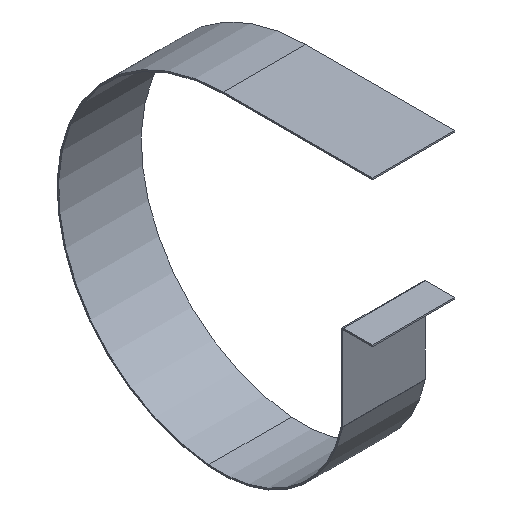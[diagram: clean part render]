
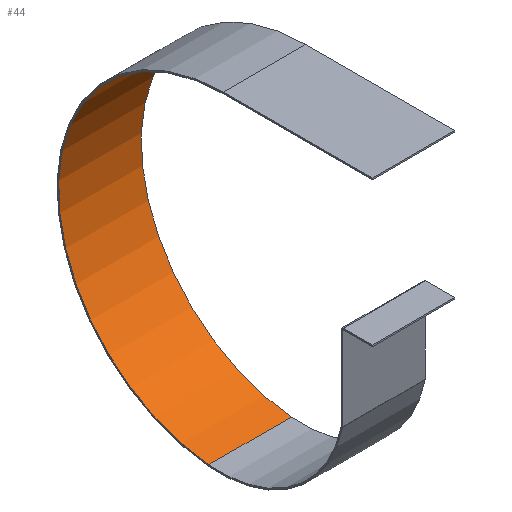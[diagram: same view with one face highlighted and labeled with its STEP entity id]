
A CAD part, isometric view. The second image highlights one B-rep face of the part: STEP entity #44.
In plain terms, the highlighted cylindrical face has radius 223 mm (diameter 446 mm), a partial arc.
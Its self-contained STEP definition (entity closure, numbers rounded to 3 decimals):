
#13 = VERTEX_POINT ( 'NONE', #797 ) ;
#15 = DIRECTION ( 'NONE',  ( -1., 0., 0. ) ) ;
#23 = DIRECTION ( 'NONE',  ( 0., 0., 1. ) ) ;
#34 = ORIENTED_EDGE ( 'NONE', *, *, #566, .F. ) ;
#44 = ADVANCED_FACE ( 'NONE', ( #329 ), #628, .F. ) ;
#98 = DIRECTION ( 'NONE',  ( 0., 0., 1. ) ) ;
#126 = CARTESIAN_POINT ( 'NONE',  ( 0., 202., -2. ) ) ;
#162 = DIRECTION ( 'NONE',  ( -1., 0., 0. ) ) ;
#205 = CARTESIAN_POINT ( 'NONE',  ( 112., 221.436, -447.151 ) ) ;
#223 = VERTEX_POINT ( 'NONE', #451 ) ;
#248 = ORIENTED_EDGE ( 'NONE', *, *, #321, .F. ) ;
#251 = VECTOR ( 'NONE', #15, 1000. ) ;
#276 = LINE ( 'NONE', #205, #251 ) ;
#289 = CARTESIAN_POINT ( 'NONE',  ( 0., 202., -225. ) ) ;
#321 = EDGE_CURVE ( 'NONE', #223, #721, #765, .T. ) ;
#329 = FACE_OUTER_BOUND ( 'NONE', #516, .T. ) ;
#354 = DIRECTION ( 'NONE',  ( 0., 0., 1. ) ) ;
#382 = VERTEX_POINT ( 'NONE', #126 ) ;
#398 = DIRECTION ( 'NONE',  ( -1., 0., 0. ) ) ;
#407 = ORIENTED_EDGE ( 'NONE', *, *, #684, .T. ) ;
#451 = CARTESIAN_POINT ( 'NONE',  ( 112., 202., -2. ) ) ;
#472 = VECTOR ( 'NONE', #624, 1000. ) ;
#492 = CARTESIAN_POINT ( 'NONE',  ( 112., 202., -2. ) ) ;
#510 = EDGE_CURVE ( 'NONE', #721, #13, #276, .T. ) ;
#511 = ORIENTED_EDGE ( 'NONE', *, *, #510, .F. ) ;
#516 = EDGE_LOOP ( 'NONE', ( #34, #511, #248, #407 ) ) ;
#544 = AXIS2_PLACEMENT_3D ( 'NONE', #785, #398, #23 ) ;
#545 = CARTESIAN_POINT ( 'NONE',  ( 749.279, 202., -225. ) ) ;
#554 = CIRCLE ( 'NONE', #573, 223. ) ;
#561 = CARTESIAN_POINT ( 'NONE',  ( 112., 221.436, -447.151 ) ) ;
#566 = EDGE_CURVE ( 'NONE', #13, #382, #554, .T. ) ;
#573 = AXIS2_PLACEMENT_3D ( 'NONE', #289, #738, #354 ) ;
#624 = DIRECTION ( 'NONE',  ( -1., 0., 0. ) ) ;
#628 = CYLINDRICAL_SURFACE ( 'NONE', #696, 223. ) ;
#670 = LINE ( 'NONE', #492, #472 ) ;
#684 = EDGE_CURVE ( 'NONE', #223, #382, #670, .T. ) ;
#696 = AXIS2_PLACEMENT_3D ( 'NONE', #545, #162, #98 ) ;
#721 = VERTEX_POINT ( 'NONE', #561 ) ;
#738 = DIRECTION ( 'NONE',  ( 1., 0., 0. ) ) ;
#765 = CIRCLE ( 'NONE', #544, 223. ) ;
#785 = CARTESIAN_POINT ( 'NONE',  ( 112., 202., -225. ) ) ;
#797 = CARTESIAN_POINT ( 'NONE',  ( 0., 221.436, -447.151 ) ) ;
